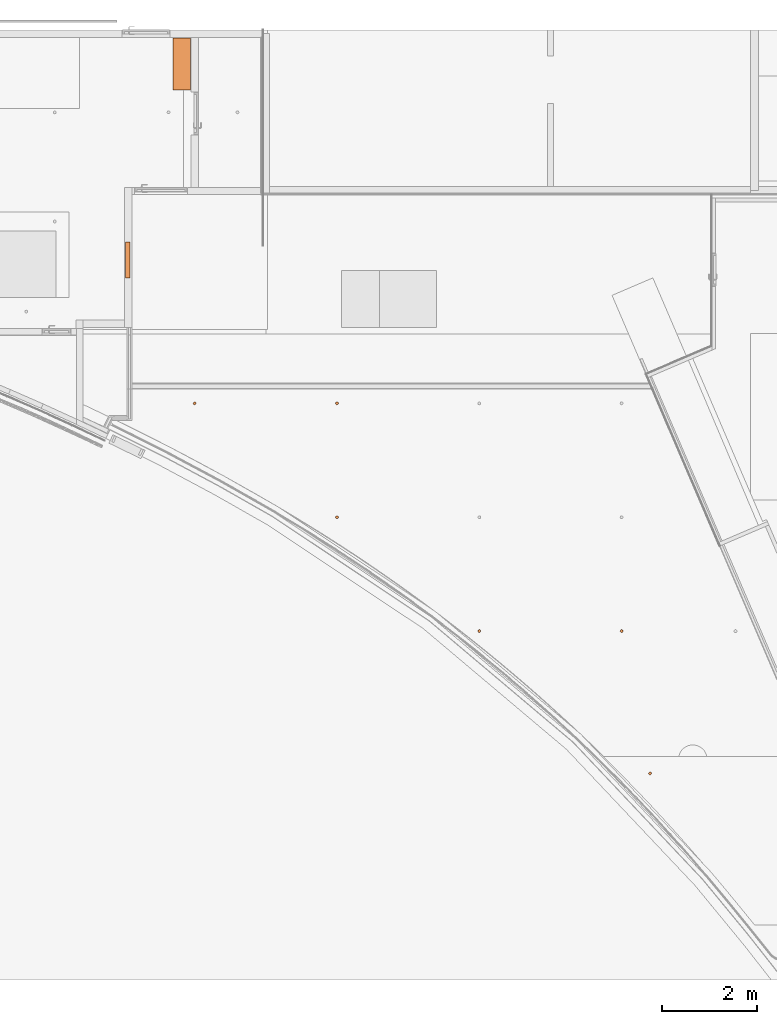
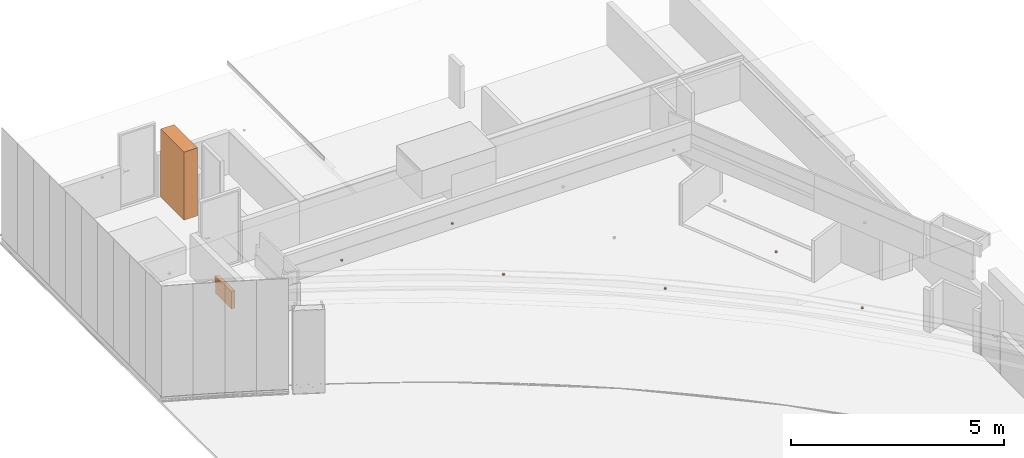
# One storey, part 12 of 16: 8 proxies.
"""IFC2X3 building model written with IfcOpenShell, lengths in millimetres."""

from ifc_helpers import new_model, entity, si_unit, converted_unit, derived_unit, direction, frame, frame_2d, origin, origin_with_axes, origin_2d_with_axis, place, context, subcontext, project, spatial, rectangle, circle, extrude, source, transform, mapped, material, type_object, element, save


model = new_model("IFC2X3")

# Units and contexts
model_context = context("Model", 3, precision=0.01, world=frame((0.0, 4.29681676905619e-09, 0.0)), true_north=direction((4.01073788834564e-13, 1.0)))
plan_context = context("Plan", 3, precision=0.01, world=frame((0.0, 4.29681676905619e-09, 0.0)), true_north=direction((4.01073788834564e-13, 1.0)))
body_context = subcontext(model_context, "Body", "Model", "MODEL_VIEW")
ifc_project = project(units=[converted_unit("PLANEANGLEUNIT", "DEGREE", entity("IfcPositiveLengthMeasure", 0.0174532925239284), si_unit("PLANEANGLEUNIT", "RADIAN"), dimensions=[0, 0, 0, 0, 0, 0, 0]), si_unit("AREAUNIT", "SQUARE_METRE"), si_unit("LENGTHUNIT", "METRE", prefix="MILLI"), si_unit("MASSUNIT", "GRAM", prefix="KILO"), si_unit("POWERUNIT", "WATT"), si_unit("PRESSUREUNIT", "PASCAL"), si_unit("FORCEUNIT", "NEWTON", prefix="KILO"), si_unit("ELECTRICCURRENTUNIT", "AMPERE"), si_unit("THERMODYNAMICTEMPERATUREUNIT", "DEGREE_CELSIUS"), si_unit("TIMEUNIT", "SECOND"), si_unit("VOLUMEUNIT", "CUBIC_METRE"), derived_unit("LINEARVELOCITYUNIT", [(si_unit("LENGTHUNIT", "METRE"), 1), (si_unit("TIMEUNIT", "SECOND"), -1)]), derived_unit("VOLUMETRICFLOWRATEUNIT", [(si_unit("VOLUMEUNIT", "CUBIC_METRE"), 1), (si_unit("TIMEUNIT", "SECOND"), -1)]), derived_unit("THERMALTRANSMITTANCEUNIT", [(si_unit("POWERUNIT", "WATT"), 1), (si_unit("THERMODYNAMICTEMPERATUREUNIT", "KELVIN"), -1), (si_unit("AREAUNIT", "SQUARE_METRE"), -1)])], contexts=[model_context, plan_context])

# Site, building, storey
site_placement = place(None, origin_with_axes())
site = spatial("IfcSite", under=ifc_project, at=site_placement, Name="ENGM", CompositionType="ELEMENT")
building_placement = place(site_placement, origin_with_axes())
building = spatial("IfcBuilding", under=site, at=building_placement, Name="TS", CompositionType="ELEMENT")
storey_placement = place(building_placement, frame((0.0, 0.0, 204000.0), z_axis=(0.0, 0.0, 1.0), x_axis=(1.0, 0.0, 0.0)))
storey = spatial("IfcBuildingStorey", under=building, at=storey_placement, Name="Nivå D", CompositionType="ELEMENT", Elevation=204000.0)

# Proxies
ifc_material = material(Name="<Unnamed>")
building_element_proxy_type_1 = type_object("IfcBuildingElementProxyType", Name="A275 - EL skap:A275 - EL skap", PredefinedType="NOTDEFINED", material=ifc_material)
shared_shape_1 = source(origin(), body_context, "Body", "SweptSolid", [
    extrude(rectangle(XDim=370.00000000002, YDim=1100.00000000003, at=frame_2d((3.46460637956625e-11, -3.46176420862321e-11), x_axis=(1.0, 0.0))), frame((518227.500000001, 420155.191453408, 204000.0)), (0.0, 0.0, 1.0), 1950.00000000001),
])
proxy_1_placement = place(storey_placement, frame((0.0, 0.0, -204000.0), z_axis=(0.0, 0.0, 1.0), x_axis=(1.0, 0.0, 0.0)))
element("IfcBuildingElementProxy", 1, at=proxy_1_placement, inside=storey, type_object=building_element_proxy_type_1, material=ifc_material, Name="A275 - EL skap:A275 - EL skap", ObjectType="A275 - EL skap:A275 - EL skap", context=body_context, shape_type="MappedRepresentation", body=[
    mapped(shared_shape_1, transform((0.0, 0.0, 0.0), scale=1.0)),
])
building_element_proxy_type_2 = type_object("IfcBuildingElementProxyType", Name="V333 - Sprinkelhode:V333 - Sprinkelhode", PredefinedType="NOTDEFINED", material=ifc_material)
shared_shape_2 = source(origin(), body_context, "Body", "SweptSolid", [
    extrude(circle(Radius=30.0, at=frame_2d((-6.55042322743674e-16, -4.84663372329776e-14), x_axis=(1.0, 0.0))), frame((0.0, 0.0, 2418.4)), (0.0, 0.0, 1.0), 29.9999999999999),
])
for number, where, z_axis, x_axis, name in (
    (2, (521500.000000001, 410599.999999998, 271.600000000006), (0.0, 0.0, 1.0), (1.0, 0.0, 0.0), "V333 - Sprinkelhode:V333 - Sprinkelhode"),
    (3, (527500.0, 408199.999999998, 271.600000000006), (0.0, 0.0, 1.0), (1.0, 0.0, 0.0), "V333 - Sprinkelhode:V333 - Sprinkelhode"),
    (4, (524500.000000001, 408199.999999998, 271.600000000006), (0.0, 0.0, 1.0), (1.0, 0.0, 0.0), "V333 - Sprinkelhode:V333 - Sprinkelhode"),
    (5, (528100.0, 405200.0, 271.600000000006), (0.0, 0.0, 1.0), (1.0, 0.0, 0.0), "V333 - Sprinkelhode:V333 - Sprinkelhode"),
    (6, (521500.0, 412999.999999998, 271.600000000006), (0.0, 0.0, 1.0), (1.0, 0.0, 0.0), "V333 - Sprinkelhode:V333 - Sprinkelhode"),
    (7, (518500.000000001, 412999.999999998, 271.600000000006), (0.0, 0.0, 1.0), (1.0, 0.0, 0.0), "V333 - Sprinkelhode:V333 - Sprinkelhode"),
):
    element("IfcBuildingElementProxy", number, at=place(storey_placement, frame(where, z_axis=z_axis, x_axis=x_axis)), inside=storey, type_object=building_element_proxy_type_2, material=ifc_material, Name=name, ObjectType="V333 - Sprinkelhode:V333 - Sprinkelhode", context=body_context, shape_type="MappedRepresentation", body=[
        mapped(shared_shape_2, transform((0.0, 0.0, 0.0), scale=1.0)),
    ])
building_element_proxy_type_3 = type_object("IfcBuildingElementProxyType", Name="A278 - Vannfordelingsskap innfelt i vegg:V310 - Vannfordelingsskap innfelt i vegg", PredefinedType="NOTDEFINED", material=ifc_material)
shared_shape_3 = source(origin(), body_context, "Body", "SweptSolid", [
    extrude(rectangle(XDim=95.000000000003, YDim=750.0, at=origin_2d_with_axis()), frame((125.0, 15.0, 10.0), z_axis=(0.0, 0.0, 1.0), x_axis=(0.0, 1.0, 0.0)), (0.0, 0.0, 1.0), 500.0),
])
proxy_2_placement = place(storey_placement, frame((517100.000000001, 415896.102387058, 200.0), z_axis=(0.0, 0.0, 1.0), x_axis=(0.0, 1.0, 0.0)))
element("IfcBuildingElementProxy", 8, at=proxy_2_placement, inside=storey, type_object=building_element_proxy_type_3, material=ifc_material, Name="A278 - Vannfordelingsskap innfelt i vegg:V310 - Vannfordelingsskap innfelt i vegg", ObjectType="A278 - Vannfordelingsskap innfelt i vegg:V310 - Vannfordelingsskap innfelt i vegg", context=body_context, shape_type="MappedRepresentation", body=[
    mapped(shared_shape_3, transform((0.0, 0.0, 0.0), scale=1.0)),
])

save(model, "model.ifc")
